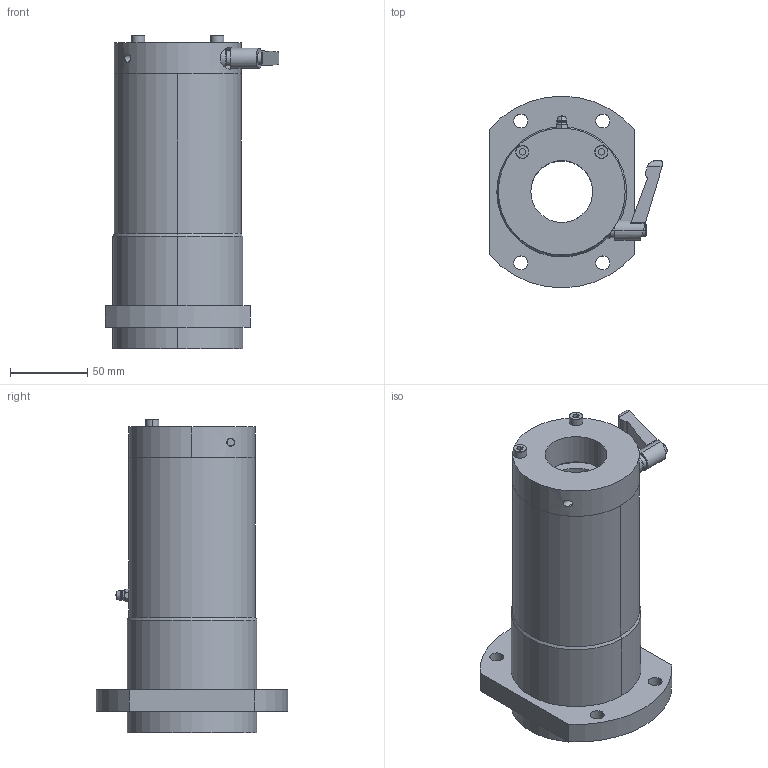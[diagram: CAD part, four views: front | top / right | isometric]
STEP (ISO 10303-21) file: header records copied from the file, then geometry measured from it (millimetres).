
FILE_DESCRIPTION (( 'STEP AP214' ), '1' );
FILE_NAME ('LFWB40-CS.STEP', '2023-06-27T02:31:54', ( '' ), ( '' ), 'SwSTEP 2.0', 'SolidWorks 2019', '' );
FILE_SCHEMA (( 'AUTOMOTIVE_DESIGN' ));
Length unit declared in the file: millimetre
Products named in the file (3): LFWB40-CS; LFWB40; “ÁSCK4020SS-S5.5
Assembly tree (2 placements, depth 2):
  LFWB40-CS
    LFWB40
    “ÁSCK4020SS-S5.5
Bounding box: 112.4 x 124 x 203 mm (x, y, z)
Volume: 869046.3 mm3; surface area: 126359.6 mm2
Topology: 4 solids, 10 shells, 234 faces, 567 edges, 356 vertices
Faces by surface type: cylinder 85, plane 68, bspline 47, cone 22, torus 8, sphere 4
Entity records: 10137 total; most frequent: CARTESIAN_POINT 2264, DIRECTION 1175, ORIENTED_EDGE 1118, EDGE_CURVE 559, AXIS2_PLACEMENT_3D 489, VERTEX_POINT 352, CIRCLE 297, EDGE_LOOP 283
